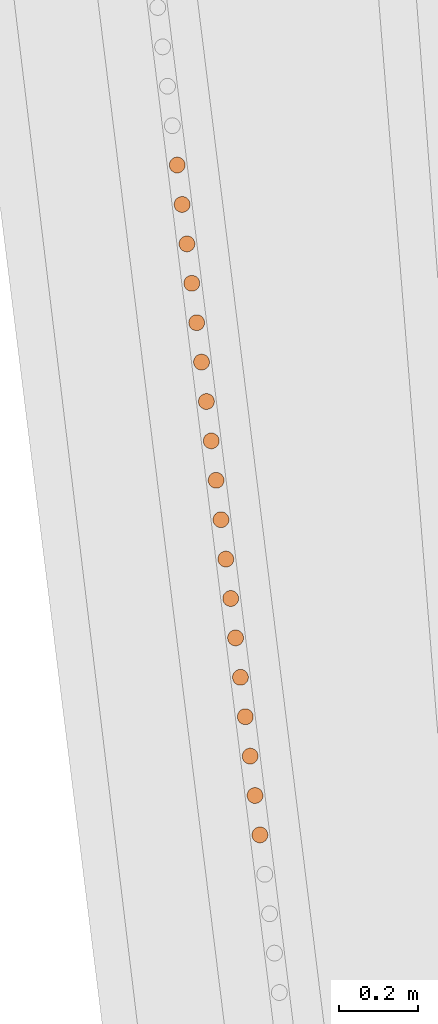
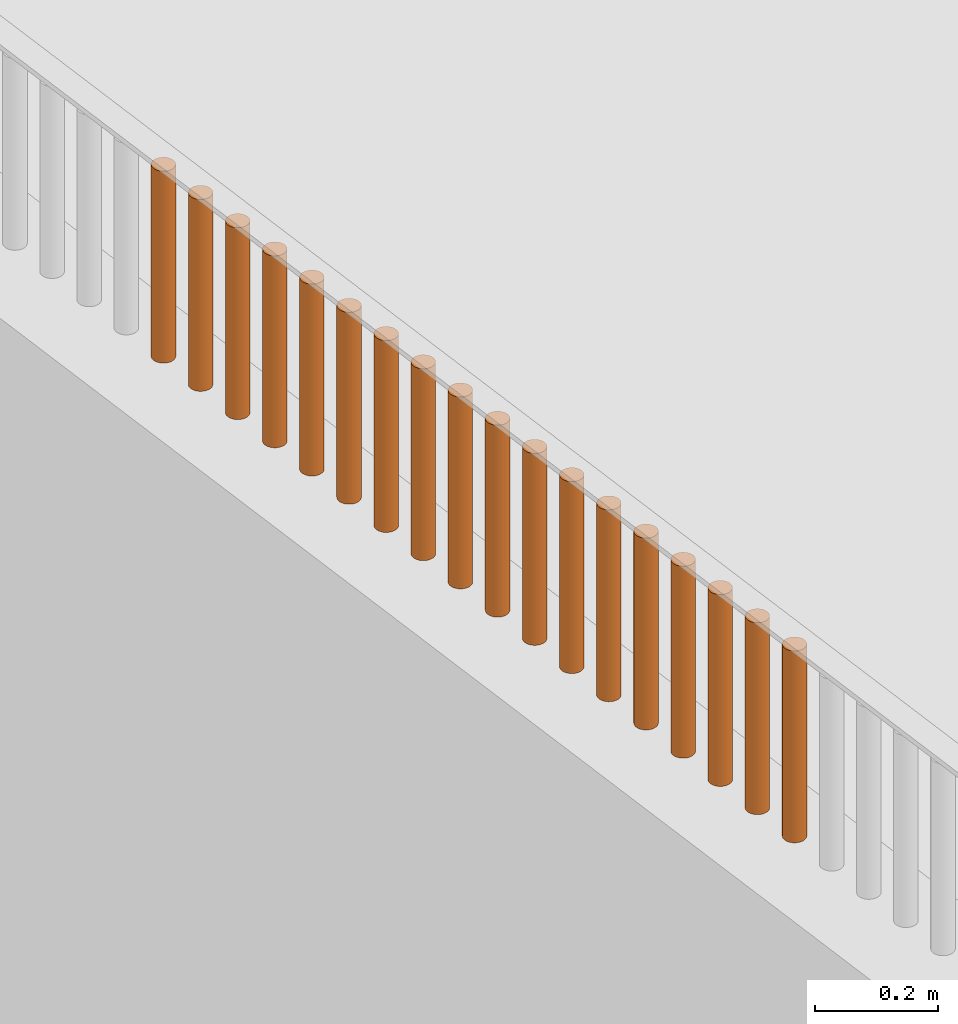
# One storey, part 120 of 1809: 18 proxies, 1 element without a shape of its own.
"""IFC2X3 building model written with IfcOpenShell, lengths in millimetres."""

from ifc_helpers import new_model, entity, si_unit, converted_unit, derived_unit, money_unit, direction, frame, origin_with_axes, place, context, subcontext, project, spatial, faceted_brep, source, transform, mapped, material, type_object, element, aggregate, save


model = new_model("IFC2X3")

# Units and contexts
model_context = context("Model", 3, precision=0.01, world=origin_with_axes(), true_north=direction((0.0, 1.0)))
body_context = subcontext(model_context, "Body", "Model", "MODEL_VIEW")
ifc_project = project(units=[si_unit("LENGTHUNIT", "METRE", prefix="MILLI"), si_unit("AREAUNIT", "SQUARE_METRE"), si_unit("VOLUMEUNIT", "CUBIC_METRE"), converted_unit("PLANEANGLEUNIT", "DEGREE", entity("IfcPlaneAngleMeasure", 0.0174532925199), si_unit("PLANEANGLEUNIT", "RADIAN"), dimensions=[0, 0, 0, 0, 0, 0, 0]), si_unit("SOLIDANGLEUNIT", "STERADIAN"), money_unit("EUR"), converted_unit("TIMEUNIT", "Year", entity("IfcTimeMeasure", 31556926.0), si_unit("TIMEUNIT", "SECOND"), dimensions=[0, 0, 1, 0, 0, 0, 0]), si_unit("MASSUNIT", "GRAM", prefix="KILO"), si_unit("THERMODYNAMICTEMPERATUREUNIT", "DEGREE_CELSIUS"), si_unit("LUMINOUSINTENSITYUNIT", "LUMEN"), si_unit("ENERGYUNIT", "JOULE", prefix="MEGA"), derived_unit("THERMALCONDUCTANCEUNIT", [(si_unit("POWERUNIT", "WATT"), 1), (si_unit("LENGTHUNIT", "METRE"), -1), (si_unit("THERMODYNAMICTEMPERATUREUNIT", "KELVIN"), -1)]), derived_unit("SPECIFICHEATCAPACITYUNIT", [(si_unit("ENERGYUNIT", "JOULE"), 1), (si_unit("MASSUNIT", "GRAM", prefix="KILO"), -1), (si_unit("THERMODYNAMICTEMPERATUREUNIT", "KELVIN"), -1)]), derived_unit("MASSDENSITYUNIT", [(si_unit("MASSUNIT", "GRAM", prefix="KILO"), 1), (si_unit("VOLUMEUNIT", "CUBIC_METRE"), -1)])], contexts=[model_context])

# Site, building, storey
site_placement = place(None, origin_with_axes())
site = spatial("IfcSite", under=ifc_project, at=site_placement, Name="Politse- ja Piirivalveameti ning Päästeameti ühishoone", CompositionType="ELEMENT")
building_placement = place(site_placement, origin_with_axes())
building = spatial("IfcBuilding", under=site, at=building_placement, Name="Politse- ja Piirivalveameti ning Päästeameti ühishoone", CompositionType="ELEMENT")
storey_placement = place(building_placement, origin_with_axes())
storey = spatial("IfcBuildingStorey", under=building, at=storey_placement, Name="Esimene korrus", CompositionType="ELEMENT", Elevation=0.0)

# Proxies
building_element_proxy_type_1 = type_object("IfcBuildingElementProxyType", Name="Railing Type", PredefinedType="NOTDEFINED")
proxy_1_placement = place(storey_placement, frame((-18956.5522504, -53688.4757966, 2100.0), z_axis=(0.0, 0.0, 1.0), x_axis=(1.0, 0.0, 0.0)))
proxy_1 = element("IfcBuildingElementProxy", 1, at=proxy_1_placement, inside=storey, type_object=building_element_proxy_type_1, Name="PIIRDEAED")
ifc_material = material(Name="ET-06_Teras - Konstruktsioon")
building_element_proxy_type_2 = type_object("IfcBuildingElementProxyType", Name="IfcBuildingElementProxy", PredefinedType="NOTDEFINED")
shared_shape_1 = source(origin_with_axes(), body_context, "Body", "Brep", [
    faceted_brep([(0.0, -20.0, 0.0), (3.47296355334, -19.6961550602, 0.0), (3.47296355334, -19.6961550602, 380.000012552), (0.0, -20.0, 380.000012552), (-3.47296355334, -19.6961550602, 0.0), (-6.84040286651, -18.7938524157, 0.0), (-10.0, -17.3205080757, 0.0), (-12.8557521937, -15.3208888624, 0.0), (-15.3208888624, -12.8557521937, 0.0), (-17.3205080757, -10.0, 0.0), (-18.7938524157, -6.84040286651, 0.0), (-19.6961550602, -3.47296355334, 0.0), (-20.0, 0.0, 0.0), (-19.6961550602, 3.47296355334, 0.0), (-18.7938524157, 6.84040286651, 0.0), (-17.3205080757, 10.0, 0.0), (-15.3208888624, 12.8557521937, 0.0), (-12.8557521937, 15.3208888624, 0.0), (-10.0, 17.3205080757, 0.0), (-6.84040286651, 18.7938524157, 0.0), (-3.47296355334, 19.6961550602, 0.0), (0.0, 20.0, 0.0), (3.47296355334, 19.6961550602, 0.0), (6.84040286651, 18.7938524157, 0.0), (10.0, 17.3205080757, 0.0), (12.8557521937, 15.3208888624, 0.0), (15.3208888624, 12.8557521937, 0.0), (17.3205080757, 10.0, 0.0), (18.7938524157, 6.84040286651, 0.0), (19.6961550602, 3.47296355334, 0.0), (20.0, 0.0, 0.0), (19.6961550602, -3.47296355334, 0.0), (18.7938524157, -6.84040286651, 0.0), (17.3205080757, -10.0, 0.0), (15.3208888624, -12.8557521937, 0.0), (12.8557521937, -15.3208888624, 0.0), (10.0, -17.3205080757, 0.0), (6.84040286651, -18.7938524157, 0.0), (6.84040286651, -18.7938524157, 380.000012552), (10.0, -17.3205080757, 380.000012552), (12.8557521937, -15.3208888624, 380.000012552), (15.3208888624, -12.8557521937, 380.000012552), (17.3205080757, -10.0, 380.000012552), (18.7938524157, -6.84040286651, 380.000012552), (19.6961550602, -3.47296355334, 380.000012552), (20.0, 0.0, 380.000012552), (19.6961550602, 3.47296355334, 380.000012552), (18.7938524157, 6.84040286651, 380.000012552), (17.3205080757, 10.0, 380.000012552), (15.3208888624, 12.8557521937, 380.000012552), (12.8557521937, 15.3208888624, 380.000012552), (10.0, 17.3205080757, 380.000012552), (6.84040286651, 18.7938524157, 380.000012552), (3.47296355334, 19.6961550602, 380.000012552), (0.0, 20.0, 380.000012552), (-3.47296355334, 19.6961550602, 380.000012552), (-6.84040286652, 18.7938524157, 380.000012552), (-10.0, 17.3205080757, 380.000012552), (-12.8557521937, 15.3208888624, 380.000012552), (-15.3208888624, 12.8557521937, 380.000012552), (-17.3205080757, 10.0, 380.000012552), (-18.7938524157, 6.84040286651, 380.000012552), (-19.6961550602, 3.47296355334, 380.000012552), (-20.0, 0.0, 380.000012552), (-19.6961550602, -3.47296355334, 380.000012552), (-18.7938524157, -6.84040286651, 380.000012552), (-17.3205080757, -10.0, 380.000012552), (-15.3208888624, -12.8557521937, 380.000012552), (-12.8557521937, -15.3208888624, 380.000012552), (-10.0, -17.3205080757, 380.000012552), (-6.84040286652, -18.7938524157, 380.000012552), (-3.47296355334, -19.6961550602, 380.000012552)], [[[0, 1, 2, 3]], [[0, 4, 5, 6, 7, 8, 9, 10, 11, 12, 13, 14, 15, 16, 17, 18, 19, 20, 21, 22, 23, 24, 25, 26, 27, 28, 29, 30, 31, 32, 33, 34, 35, 36, 37, 1]], [[1, 37, 38, 2]], [[3, 2, 38, 39, 40, 41, 42, 43, 44, 45, 46, 47, 48, 49, 50, 51, 52, 53, 54, 55, 56, 57, 58, 59, 60, 61, 62, 63, 64, 65, 66, 67, 68, 69, 70, 71]], [[4, 0, 3, 71]], [[5, 4, 71, 70]], [[6, 5, 70, 69]], [[7, 6, 69, 68]], [[8, 7, 68, 67]], [[9, 8, 67, 66]], [[10, 9, 66, 65]], [[11, 10, 65, 64]], [[12, 11, 64, 63]], [[13, 12, 63, 62]], [[14, 13, 62, 61]], [[15, 14, 61, 60]], [[16, 15, 60, 59]], [[17, 16, 59, 58]], [[18, 17, 58, 57]], [[19, 18, 57, 56]], [[20, 19, 56, 55]], [[21, 20, 55, 54]], [[22, 21, 54, 53]], [[23, 22, 53, 52]], [[24, 23, 52, 51]], [[25, 24, 51, 50]], [[26, 25, 50, 49]], [[27, 26, 49, 48]], [[28, 27, 48, 47]], [[29, 28, 47, 46]], [[30, 29, 46, 45]], [[31, 30, 45, 44]], [[32, 31, 44, 43]], [[33, 32, 43, 42]], [[34, 33, 42, 41]], [[35, 34, 41, 40]], [[36, 35, 40, 39]], [[37, 36, 39, 38]]]),
])
proxy_2_placement = place(proxy_1_placement, frame((-2665.04087448, 20756.8682445, -1.25517001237e-05), z_axis=(0.0, 0.0, 1.0), x_axis=(1.0, 0.0, 0.0)))
proxy_2 = element("IfcBuildingElementProxy", 2, at=proxy_2_placement, type_object=building_element_proxy_type_2, material=ifc_material, Name="BALUSTER - 001", context=body_context, shape_type="MappedRepresentation", body=[
    mapped(shared_shape_1, transform((0.0, 0.0, 0.0), x_axis=(0.992468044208, 0.122503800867, 0.0), y_axis=(-0.122503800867, 0.992468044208, 0.0), z_axis=(0.0, 0.0, 1.0))),
])
proxy_3_placement = place(proxy_1_placement, frame((-2677.2885794, 20856.0933759, -1.25517001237e-05), z_axis=(0.0, 0.0, 1.0), x_axis=(1.0, 0.0, 0.0)))
proxy_3 = element("IfcBuildingElementProxy", 3, at=proxy_3_placement, type_object=building_element_proxy_type_2, material=ifc_material, Name="BALUSTER - 001", context=body_context, shape_type="MappedRepresentation", body=[
    mapped(shared_shape_1, transform((0.0, 0.0, 0.0), x_axis=(0.992468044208, 0.122503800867, 0.0), y_axis=(-0.122503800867, 0.992468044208, 0.0), z_axis=(0.0, 0.0, 1.0))),
])
proxy_4_placement = place(proxy_1_placement, frame((-2689.53628431, 20955.3185073, -1.25517001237e-05), z_axis=(0.0, 0.0, 1.0), x_axis=(1.0, 0.0, 0.0)))
proxy_4 = element("IfcBuildingElementProxy", 4, at=proxy_4_placement, type_object=building_element_proxy_type_2, material=ifc_material, Name="BALUSTER - 001", context=body_context, shape_type="MappedRepresentation", body=[
    mapped(shared_shape_1, transform((0.0, 0.0, 0.0), x_axis=(0.992468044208, 0.122503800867, 0.0), y_axis=(-0.122503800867, 0.992468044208, 0.0), z_axis=(0.0, 0.0, 1.0))),
])
proxy_5_placement = place(proxy_1_placement, frame((-2714.03169414, 21153.7687702, -1.25517001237e-05), z_axis=(0.0, 0.0, 1.0), x_axis=(1.0, 0.0, 0.0)))
proxy_5 = element("IfcBuildingElementProxy", 5, at=proxy_5_placement, type_object=building_element_proxy_type_2, material=ifc_material, Name="BALUSTER - 001", context=body_context, shape_type="MappedRepresentation", body=[
    mapped(shared_shape_1, transform((0.0, 0.0, 0.0), x_axis=(0.992468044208, 0.122503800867, 0.0), y_axis=(-0.122503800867, 0.992468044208, 0.0), z_axis=(0.0, 0.0, 1.0))),
])
proxy_6_placement = place(proxy_1_placement, frame((-2763.02251379, 21550.6692959, -1.25517001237e-05), z_axis=(0.0, 0.0, 1.0), x_axis=(1.0, 0.0, 0.0)))
proxy_6 = element("IfcBuildingElementProxy", 6, at=proxy_6_placement, type_object=building_element_proxy_type_2, material=ifc_material, Name="BALUSTER - 001", context=body_context, shape_type="MappedRepresentation", body=[
    mapped(shared_shape_1, transform((0.0, 0.0, 0.0), x_axis=(0.992468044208, 0.122503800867, 0.0), y_axis=(-0.122503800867, 0.992468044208, 0.0), z_axis=(0.0, 0.0, 1.0))),
])
proxy_7_placement = place(proxy_1_placement, frame((-2787.51792362, 21749.1195587, -1.25517001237e-05), z_axis=(0.0, 0.0, 1.0), x_axis=(1.0, 0.0, 0.0)))
proxy_7 = element("IfcBuildingElementProxy", 7, at=proxy_7_placement, type_object=building_element_proxy_type_2, material=ifc_material, Name="BALUSTER - 001", context=body_context, shape_type="MappedRepresentation", body=[
    mapped(shared_shape_1, transform((0.0, 0.0, 0.0), x_axis=(0.992468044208, 0.122503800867, 0.0), y_axis=(-0.122503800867, 0.992468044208, 0.0), z_axis=(0.0, 0.0, 1.0))),
])
proxy_8_placement = place(proxy_1_placement, frame((-2799.76562853, 21848.3446901, -1.25517001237e-05), z_axis=(0.0, 0.0, 1.0), x_axis=(1.0, 0.0, 0.0)))
proxy_8 = element("IfcBuildingElementProxy", 8, at=proxy_8_placement, type_object=building_element_proxy_type_2, material=ifc_material, Name="BALUSTER - 001", context=body_context, shape_type="MappedRepresentation", body=[
    mapped(shared_shape_1, transform((0.0, 0.0, 0.0), x_axis=(0.992468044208, 0.122503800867, 0.0), y_axis=(-0.122503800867, 0.992468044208, 0.0), z_axis=(0.0, 0.0, 1.0))),
])
proxy_9_placement = place(proxy_1_placement, frame((-2812.01333344, 21947.5698216, -1.25517001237e-05), z_axis=(0.0, 0.0, 1.0), x_axis=(1.0, 0.0, 0.0)))
proxy_9 = element("IfcBuildingElementProxy", 9, at=proxy_9_placement, type_object=building_element_proxy_type_2, material=ifc_material, Name="BALUSTER - 001", context=body_context, shape_type="MappedRepresentation", body=[
    mapped(shared_shape_1, transform((0.0, 0.0, 0.0), x_axis=(0.992468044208, 0.122503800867, 0.0), y_axis=(-0.122503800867, 0.992468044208, 0.0), z_axis=(0.0, 0.0, 1.0))),
])
proxy_10_placement = place(proxy_1_placement, frame((-2848.75644818, 22245.2452158, -1.25517001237e-05), z_axis=(0.0, 0.0, 1.0), x_axis=(1.0, 0.0, 0.0)))
proxy_10 = element("IfcBuildingElementProxy", 10, at=proxy_10_placement, type_object=building_element_proxy_type_2, material=ifc_material, Name="BALUSTER - 001", context=body_context, shape_type="MappedRepresentation", body=[
    mapped(shared_shape_1, transform((0.0, 0.0, 0.0), x_axis=(0.992468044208, 0.122503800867, 0.0), y_axis=(-0.122503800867, 0.992468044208, 0.0), z_axis=(0.0, 0.0, 1.0))),
])
shared_shape_2 = source(origin_with_axes(), body_context, "Body", "Brep", [
    faceted_brep([(0.0, -20.0, 0.0), (3.47296355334, -19.6961550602, 0.0), (3.47296355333, -19.6961550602, 380.000012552), (0.0, -20.0, 380.000012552), (-3.47296355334, -19.6961550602, 0.0), (-6.84040286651, -18.7938524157, 0.0), (-10.0, -17.3205080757, 0.0), (-12.8557521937, -15.3208888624, 0.0), (-15.3208888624, -12.8557521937, 0.0), (-17.3205080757, -10.0, 0.0), (-18.7938524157, -6.84040286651, 0.0), (-19.6961550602, -3.47296355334, 0.0), (-20.0, 0.0, 0.0), (-19.6961550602, 3.47296355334, 0.0), (-18.7938524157, 6.84040286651, 0.0), (-17.3205080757, 10.0, 0.0), (-15.3208888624, 12.8557521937, 0.0), (-12.8557521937, 15.3208888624, 0.0), (-10.0, 17.3205080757, 0.0), (-6.84040286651, 18.7938524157, 0.0), (-3.47296355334, 19.6961550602, 0.0), (0.0, 20.0, 0.0), (3.47296355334, 19.6961550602, 0.0), (6.84040286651, 18.7938524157, 0.0), (10.0, 17.3205080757, 0.0), (12.8557521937, 15.3208888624, 0.0), (15.3208888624, 12.8557521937, 0.0), (17.3205080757, 10.0, 0.0), (18.7938524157, 6.84040286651, 0.0), (19.6961550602, 3.47296355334, 0.0), (20.0, 0.0, 0.0), (19.6961550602, -3.47296355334, 0.0), (18.7938524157, -6.84040286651, 0.0), (17.3205080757, -10.0, 0.0), (15.3208888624, -12.8557521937, 0.0), (12.8557521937, -15.3208888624, 0.0), (10.0, -17.3205080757, 0.0), (6.84040286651, -18.7938524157, 0.0), (6.84040286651, -18.7938524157, 380.000012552), (9.99999999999, -17.3205080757, 380.000012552), (12.8557521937, -15.3208888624, 380.000012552), (15.3208888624, -12.8557521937, 380.000012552), (17.3205080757, -10.0, 380.000012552), (18.7938524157, -6.84040286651, 380.000012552), (19.6961550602, -3.47296355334, 380.000012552), (20.0, 0.0, 380.000012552), (19.6961550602, 3.47296355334, 380.000012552), (18.7938524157, 6.84040286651, 380.000012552), (17.3205080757, 10.0, 380.000012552), (15.3208888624, 12.8557521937, 380.000012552), (12.8557521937, 15.3208888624, 380.000012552), (9.99999999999, 17.3205080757, 380.000012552), (6.84040286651, 18.7938524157, 380.000012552), (3.47296355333, 19.6961550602, 380.000012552), (0.0, 20.0, 380.000012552), (-3.47296355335, 19.6961550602, 380.000012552), (-6.84040286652, 18.7938524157, 380.000012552), (-10.0, 17.3205080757, 380.000012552), (-12.8557521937, 15.3208888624, 380.000012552), (-15.3208888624, 12.8557521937, 380.000012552), (-17.3205080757, 10.0, 380.000012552), (-18.7938524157, 6.84040286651, 380.000012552), (-19.6961550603, 3.47296355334, 380.000012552), (-20.0, 0.0, 380.000012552), (-19.6961550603, -3.47296355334, 380.000012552), (-18.7938524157, -6.84040286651, 380.000012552), (-17.3205080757, -10.0, 380.000012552), (-15.3208888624, -12.8557521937, 380.000012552), (-12.8557521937, -15.3208888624, 380.000012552), (-10.0, -17.3205080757, 380.000012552), (-6.84040286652, -18.7938524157, 380.000012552), (-3.47296355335, -19.6961550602, 380.000012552)], [[[0, 1, 2, 3]], [[0, 4, 5, 6, 7, 8, 9, 10, 11, 12, 13, 14, 15, 16, 17, 18, 19, 20, 21, 22, 23, 24, 25, 26, 27, 28, 29, 30, 31, 32, 33, 34, 35, 36, 37, 1]], [[1, 37, 38, 2]], [[3, 2, 38, 39, 40, 41, 42, 43, 44, 45, 46, 47, 48, 49, 50, 51, 52, 53, 54, 55, 56, 57, 58, 59, 60, 61, 62, 63, 64, 65, 66, 67, 68, 69, 70, 71]], [[4, 0, 3, 71]], [[5, 4, 71, 70]], [[6, 5, 70, 69]], [[7, 6, 69, 68]], [[8, 7, 68, 67]], [[9, 8, 67, 66]], [[10, 9, 66, 65]], [[11, 10, 65, 64]], [[12, 11, 64, 63]], [[13, 12, 63, 62]], [[14, 13, 62, 61]], [[15, 14, 61, 60]], [[16, 15, 60, 59]], [[17, 16, 59, 58]], [[18, 17, 58, 57]], [[19, 18, 57, 56]], [[20, 19, 56, 55]], [[21, 20, 55, 54]], [[22, 21, 54, 53]], [[23, 22, 53, 52]], [[24, 23, 52, 51]], [[25, 24, 51, 50]], [[26, 25, 50, 49]], [[27, 26, 49, 48]], [[28, 27, 48, 47]], [[29, 28, 47, 46]], [[30, 29, 46, 45]], [[31, 30, 45, 44]], [[32, 31, 44, 43]], [[33, 32, 43, 42]], [[34, 33, 42, 41]], [[35, 34, 41, 40]], [[36, 35, 40, 39]], [[37, 36, 39, 38]]]),
])
proxy_11_placement = place(proxy_1_placement, frame((-2640.54546466, 20558.4179816, -1.25517001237e-05), z_axis=(0.0, 0.0, 1.0), x_axis=(1.0, 0.0, 0.0)))
proxy_11 = element("IfcBuildingElementProxy", 11, at=proxy_11_placement, type_object=building_element_proxy_type_2, material=ifc_material, Name="BALUSTER - 001", context=body_context, shape_type="MappedRepresentation", body=[
    mapped(shared_shape_2, transform((0.0, 0.0, 0.0), x_axis=(0.992468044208, 0.122503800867, 0.0), y_axis=(-0.122503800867, 0.992468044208, 0.0), z_axis=(0.0, 0.0, 1.0))),
])
shared_shape_3 = source(origin_with_axes(), body_context, "Body", "Brep", [
    faceted_brep([(0.0, -20.0, 0.0), (3.47296355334, -19.6961550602, 0.0), (3.47296355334, -19.6961550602, 380.000012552), (0.0, -20.0, 380.000012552), (-3.47296355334, -19.6961550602, 0.0), (-6.84040286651, -18.7938524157, 0.0), (-10.0, -17.3205080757, 0.0), (-12.8557521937, -15.3208888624, 0.0), (-15.3208888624, -12.8557521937, 0.0), (-17.3205080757, -10.0, 0.0), (-18.7938524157, -6.84040286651, 0.0), (-19.6961550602, -3.47296355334, 0.0), (-20.0, 0.0, 0.0), (-19.6961550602, 3.47296355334, 0.0), (-18.7938524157, 6.84040286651, 0.0), (-17.3205080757, 10.0, 0.0), (-15.3208888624, 12.8557521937, 0.0), (-12.8557521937, 15.3208888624, 0.0), (-10.0, 17.3205080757, 0.0), (-6.84040286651, 18.7938524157, 0.0), (-3.47296355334, 19.6961550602, 0.0), (0.0, 20.0, 0.0), (3.47296355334, 19.6961550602, 0.0), (6.84040286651, 18.7938524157, 0.0), (10.0, 17.3205080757, 0.0), (12.8557521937, 15.3208888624, 0.0), (15.3208888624, 12.8557521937, 0.0), (17.3205080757, 10.0, 0.0), (18.7938524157, 6.84040286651, 0.0), (19.6961550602, 3.47296355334, 0.0), (20.0, 0.0, 0.0), (19.6961550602, -3.47296355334, 0.0), (18.7938524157, -6.84040286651, 0.0), (17.3205080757, -10.0, 0.0), (15.3208888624, -12.8557521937, 0.0), (12.8557521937, -15.3208888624, 0.0), (10.0, -17.3205080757, 0.0), (6.84040286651, -18.7938524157, 0.0), (6.84040286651, -18.7938524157, 380.000012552), (10.0, -17.3205080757, 380.000012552), (12.8557521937, -15.3208888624, 380.000012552), (15.3208888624, -12.8557521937, 380.000012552), (17.3205080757, -10.0, 380.000012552), (18.7938524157, -6.84040286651, 380.000012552), (19.6961550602, -3.47296355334, 380.000012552), (20.0, 0.0, 380.000012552), (19.6961550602, 3.47296355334, 380.000012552), (18.7938524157, 6.84040286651, 380.000012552), (17.3205080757, 10.0, 380.000012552), (15.3208888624, 12.8557521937, 380.000012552), (12.8557521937, 15.3208888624, 380.000012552), (10.0, 17.3205080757, 380.000012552), (6.84040286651, 18.7938524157, 380.000012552), (3.47296355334, 19.6961550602, 380.000012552), (0.0, 20.0, 380.000012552), (-3.47296355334, 19.6961550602, 380.000012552), (-6.84040286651, 18.7938524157, 380.000012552), (-10.0, 17.3205080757, 380.000012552), (-12.8557521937, 15.3208888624, 380.000012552), (-15.3208888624, 12.8557521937, 380.000012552), (-17.3205080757, 10.0, 380.000012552), (-18.7938524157, 6.84040286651, 380.000012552), (-19.6961550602, 3.47296355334, 380.000012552), (-20.0, 0.0, 380.000012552), (-19.6961550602, -3.47296355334, 380.000012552), (-18.7938524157, -6.84040286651, 380.000012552), (-17.3205080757, -10.0, 380.000012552), (-15.3208888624, -12.8557521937, 380.000012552), (-12.8557521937, -15.3208888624, 380.000012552), (-10.0, -17.3205080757, 380.000012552), (-6.84040286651, -18.7938524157, 380.000012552), (-3.47296355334, -19.6961550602, 380.000012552)], [[[0, 1, 2, 3]], [[0, 4, 5, 6, 7, 8, 9, 10, 11, 12, 13, 14, 15, 16, 17, 18, 19, 20, 21, 22, 23, 24, 25, 26, 27, 28, 29, 30, 31, 32, 33, 34, 35, 36, 37, 1]], [[1, 37, 38, 2]], [[3, 2, 38, 39, 40, 41, 42, 43, 44, 45, 46, 47, 48, 49, 50, 51, 52, 53, 54, 55, 56, 57, 58, 59, 60, 61, 62, 63, 64, 65, 66, 67, 68, 69, 70, 71]], [[4, 0, 3, 71]], [[5, 4, 71, 70]], [[6, 5, 70, 69]], [[7, 6, 69, 68]], [[8, 7, 68, 67]], [[9, 8, 67, 66]], [[10, 9, 66, 65]], [[11, 10, 65, 64]], [[12, 11, 64, 63]], [[13, 12, 63, 62]], [[14, 13, 62, 61]], [[15, 14, 61, 60]], [[16, 15, 60, 59]], [[17, 16, 59, 58]], [[18, 17, 58, 57]], [[19, 18, 57, 56]], [[20, 19, 56, 55]], [[21, 20, 55, 54]], [[22, 21, 54, 53]], [[23, 22, 53, 52]], [[24, 23, 52, 51]], [[25, 24, 51, 50]], [[26, 25, 50, 49]], [[27, 26, 49, 48]], [[28, 27, 48, 47]], [[29, 28, 47, 46]], [[30, 29, 46, 45]], [[31, 30, 45, 44]], [[32, 31, 44, 43]], [[33, 32, 43, 42]], [[34, 33, 42, 41]], [[35, 34, 41, 40]], [[36, 35, 40, 39]], [[37, 36, 39, 38]]]),
])
proxy_12_placement = place(proxy_1_placement, frame((-2701.78398922, 21054.5436387, -1.25517001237e-05), z_axis=(0.0, 0.0, 1.0), x_axis=(1.0, 0.0, 0.0)))
proxy_12 = element("IfcBuildingElementProxy", 12, at=proxy_12_placement, type_object=building_element_proxy_type_2, material=ifc_material, Name="BALUSTER - 001", context=body_context, shape_type="MappedRepresentation", body=[
    mapped(shared_shape_3, transform((0.0, 0.0, 0.0), x_axis=(0.992468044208, 0.122503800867, 0.0), y_axis=(-0.122503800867, 0.992468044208, 0.0), z_axis=(0.0, 0.0, 1.0))),
])
proxy_13_placement = place(proxy_1_placement, frame((-2726.27939905, 21252.9939016, -1.25517001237e-05), z_axis=(0.0, 0.0, 1.0), x_axis=(1.0, 0.0, 0.0)))
proxy_13 = element("IfcBuildingElementProxy", 13, at=proxy_13_placement, type_object=building_element_proxy_type_2, material=ifc_material, Name="BALUSTER - 001", context=body_context, shape_type="MappedRepresentation", body=[
    mapped(shared_shape_3, transform((0.0, 0.0, 0.0), x_axis=(0.992468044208, 0.122503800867, 0.0), y_axis=(-0.122503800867, 0.992468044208, 0.0), z_axis=(0.0, 0.0, 1.0))),
])
proxy_14_placement = place(proxy_1_placement, frame((-2750.77480888, 21451.4441644, -1.25517001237e-05), z_axis=(0.0, 0.0, 1.0), x_axis=(1.0, 0.0, 0.0)))
proxy_14 = element("IfcBuildingElementProxy", 14, at=proxy_14_placement, type_object=building_element_proxy_type_2, material=ifc_material, Name="BALUSTER - 001", context=body_context, shape_type="MappedRepresentation", body=[
    mapped(shared_shape_3, transform((0.0, 0.0, 0.0), x_axis=(0.992468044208, 0.122503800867, 0.0), y_axis=(-0.122503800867, 0.992468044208, 0.0), z_axis=(0.0, 0.0, 1.0))),
])
proxy_15_placement = place(proxy_1_placement, frame((-2775.2702187, 21649.8944273, -1.25517001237e-05), z_axis=(0.0, 0.0, 1.0), x_axis=(1.0, 0.0, 0.0)))
proxy_15 = element("IfcBuildingElementProxy", 15, at=proxy_15_placement, type_object=building_element_proxy_type_2, material=ifc_material, Name="BALUSTER - 001", context=body_context, shape_type="MappedRepresentation", body=[
    mapped(shared_shape_3, transform((0.0, 0.0, 0.0), x_axis=(0.992468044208, 0.122503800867, 0.0), y_axis=(-0.122503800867, 0.992468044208, 0.0), z_axis=(0.0, 0.0, 1.0))),
])
shared_shape_4 = source(origin_with_axes(), body_context, "Body", "Brep", [
    faceted_brep([(0.0, -20.0, 0.0), (3.47296355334, -19.6961550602, 0.0), (3.47296355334, -19.6961550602, 380.000012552), (0.0, -20.0, 380.000012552), (-3.47296355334, -19.6961550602, 0.0), (-6.84040286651, -18.7938524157, 0.0), (-10.0, -17.3205080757, 0.0), (-12.8557521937, -15.3208888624, 0.0), (-15.3208888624, -12.8557521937, 0.0), (-17.3205080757, -10.0, 0.0), (-18.7938524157, -6.84040286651, 0.0), (-19.6961550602, -3.47296355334, 0.0), (-20.0, 0.0, 0.0), (-19.6961550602, 3.47296355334, 0.0), (-18.7938524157, 6.84040286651, 0.0), (-17.3205080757, 10.0, 0.0), (-15.3208888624, 12.8557521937, 0.0), (-12.8557521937, 15.3208888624, 0.0), (-10.0, 17.3205080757, 0.0), (-6.84040286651, 18.7938524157, 0.0), (-3.47296355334, 19.6961550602, 0.0), (0.0, 20.0, 0.0), (3.47296355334, 19.6961550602, 0.0), (6.84040286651, 18.7938524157, 0.0), (10.0, 17.3205080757, 0.0), (12.8557521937, 15.3208888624, 0.0), (15.3208888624, 12.8557521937, 0.0), (17.3205080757, 10.0, 0.0), (18.7938524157, 6.84040286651, 0.0), (19.6961550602, 3.47296355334, 0.0), (20.0, 0.0, 0.0), (19.6961550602, -3.47296355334, 0.0), (18.7938524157, -6.84040286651, 0.0), (17.3205080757, -10.0, 0.0), (15.3208888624, -12.8557521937, 0.0), (12.8557521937, -15.3208888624, 0.0), (10.0, -17.3205080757, 0.0), (6.84040286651, -18.7938524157, 0.0), (6.84040286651, -18.7938524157, 380.000012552), (10.0, -17.3205080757, 380.000012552), (12.8557521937, -15.3208888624, 380.000012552), (15.3208888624, -12.8557521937, 380.000012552), (17.3205080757, -10.0, 380.000012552), (18.7938524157, -6.84040286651, 380.000012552), (19.6961550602, -3.47296355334, 380.000012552), (20.0, 0.0, 380.000012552), (19.6961550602, 3.47296355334, 380.000012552), (18.7938524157, 6.84040286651, 380.000012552), (17.3205080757, 10.0, 380.000012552), (15.3208888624, 12.8557521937, 380.000012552), (12.8557521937, 15.3208888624, 380.000012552), (10.0, 17.3205080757, 380.000012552), (6.84040286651, 18.7938524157, 380.000012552), (3.47296355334, 19.6961550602, 380.000012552), (0.0, 20.0, 380.000012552), (-3.47296355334, 19.6961550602, 380.000012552), (-6.84040286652, 18.7938524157, 380.000012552), (-10.0, 17.3205080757, 380.000012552), (-12.8557521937, 15.3208888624, 380.000012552), (-15.3208888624, 12.8557521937, 380.000012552), (-17.3205080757, 10.0, 380.000012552), (-18.7938524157, 6.84040286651, 380.000012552), (-19.6961550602, 3.47296355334, 380.000012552), (-20.0, 0.0, 380.000012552), (-19.6961550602, -3.47296355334, 380.000012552), (-18.7938524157, -6.84040286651, 380.000012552), (-17.3205080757, -10.0, 380.000012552), (-15.3208888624, -12.8557521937, 380.000012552), (-12.8557521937, -15.3208888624, 380.000012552), (-10.0, -17.3205080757, 380.000012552), (-6.84040286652, -18.7938524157, 380.000012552), (-3.47296355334, -19.6961550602, 380.000012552)], [[[0, 1, 2, 3]], [[0, 4, 5, 6, 7, 8, 9, 10, 11, 12, 13, 14, 15, 16, 17, 18, 19, 20, 21, 22, 23, 24, 25, 26, 27, 28, 29, 30, 31, 32, 33, 34, 35, 36, 37, 1]], [[1, 37, 38, 2]], [[3, 2, 38, 39, 40, 41, 42, 43, 44, 45, 46, 47, 48, 49, 50, 51, 52, 53, 54, 55, 56, 57, 58, 59, 60, 61, 62, 63, 64, 65, 66, 67, 68, 69, 70, 71]], [[4, 0, 3, 71]], [[5, 4, 71, 70]], [[6, 5, 70, 69]], [[7, 6, 69, 68]], [[8, 7, 68, 67]], [[9, 8, 67, 66]], [[10, 9, 66, 65]], [[11, 10, 65, 64]], [[12, 11, 64, 63]], [[13, 12, 63, 62]], [[14, 13, 62, 61]], [[15, 14, 61, 60]], [[16, 15, 60, 59]], [[17, 16, 59, 58]], [[18, 17, 58, 57]], [[19, 18, 57, 56]], [[20, 19, 56, 55]], [[21, 20, 55, 54]], [[22, 21, 54, 53]], [[23, 22, 53, 52]], [[24, 23, 52, 51]], [[25, 24, 51, 50]], [[26, 25, 50, 49]], [[27, 26, 49, 48]], [[28, 27, 48, 47]], [[29, 28, 47, 46]], [[30, 29, 46, 45]], [[31, 30, 45, 44]], [[32, 31, 44, 43]], [[33, 32, 43, 42]], [[34, 33, 42, 41]], [[35, 34, 41, 40]], [[36, 35, 40, 39]], [[37, 36, 39, 38]]]),
])
proxy_16_placement = place(proxy_1_placement, frame((-2824.26103835, 22046.794953, -1.25517001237e-05), z_axis=(0.0, 0.0, 1.0), x_axis=(1.0, 0.0, 0.0)))
proxy_16 = element("IfcBuildingElementProxy", 16, at=proxy_16_placement, type_object=building_element_proxy_type_2, material=ifc_material, Name="BALUSTER - 001", context=body_context, shape_type="MappedRepresentation", body=[
    mapped(shared_shape_4, transform((0.0, 0.0, 0.0), x_axis=(0.992468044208, 0.122503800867, 0.0), y_axis=(-0.122503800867, 0.992468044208, 0.0), z_axis=(0.0, 0.0, 1.0))),
])
shared_shape_5 = source(origin_with_axes(), body_context, "Body", "Brep", [
    faceted_brep([(0.0, -20.0, 0.0), (3.47296355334, -19.6961550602, 0.0), (3.47296355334, -19.6961550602, 380.000012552), (0.0, -20.0, 380.000012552), (-3.47296355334, -19.6961550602, 0.0), (-6.84040286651, -18.7938524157, 0.0), (-10.0, -17.3205080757, 0.0), (-12.8557521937, -15.3208888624, 0.0), (-15.3208888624, -12.8557521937, 0.0), (-17.3205080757, -10.0, 0.0), (-18.7938524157, -6.84040286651, 0.0), (-19.6961550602, -3.47296355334, 0.0), (-20.0, 0.0, 0.0), (-19.6961550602, 3.47296355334, 0.0), (-18.7938524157, 6.84040286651, 0.0), (-17.3205080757, 10.0, 0.0), (-15.3208888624, 12.8557521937, 0.0), (-12.8557521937, 15.3208888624, 0.0), (-10.0, 17.3205080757, 0.0), (-6.84040286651, 18.7938524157, 0.0), (-3.47296355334, 19.6961550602, 0.0), (0.0, 20.0, 0.0), (3.47296355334, 19.6961550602, 0.0), (6.84040286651, 18.7938524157, 0.0), (10.0, 17.3205080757, 0.0), (12.8557521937, 15.3208888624, 0.0), (15.3208888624, 12.8557521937, 0.0), (17.3205080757, 10.0, 0.0), (18.7938524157, 6.84040286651, 0.0), (19.6961550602, 3.47296355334, 0.0), (20.0, 0.0, 0.0), (19.6961550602, -3.47296355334, 0.0), (18.7938524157, -6.84040286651, 0.0), (17.3205080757, -10.0, 0.0), (15.3208888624, -12.8557521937, 0.0), (12.8557521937, -15.3208888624, 0.0), (10.0, -17.3205080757, 0.0), (6.84040286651, -18.7938524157, 0.0), (6.84040286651, -18.7938524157, 380.000012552), (10.0, -17.3205080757, 380.000012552), (12.8557521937, -15.3208888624, 380.000012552), (15.3208888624, -12.8557521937, 380.000012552), (17.3205080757, -10.0, 380.000012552), (18.7938524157, -6.84040286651, 380.000012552), (19.6961550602, -3.47296355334, 380.000012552), (20.0, 0.0, 380.000012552), (19.6961550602, 3.47296355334, 380.000012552), (18.7938524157, 6.84040286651, 380.000012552), (17.3205080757, 10.0, 380.000012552), (15.3208888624, 12.8557521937, 380.000012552), (12.8557521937, 15.3208888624, 380.000012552), (10.0, 17.3205080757, 380.000012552), (6.84040286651, 18.7938524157, 380.000012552), (3.47296355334, 19.6961550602, 380.000012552), (0.0, 20.0, 380.000012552), (-3.47296355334, 19.6961550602, 380.000012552), (-6.84040286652, 18.7938524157, 380.000012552), (-10.0, 17.3205080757, 380.000012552), (-12.8557521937, 15.3208888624, 380.000012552), (-15.3208888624, 12.8557521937, 380.000012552), (-17.3205080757, 10.0, 380.000012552), (-18.7938524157, 6.84040286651, 380.000012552), (-19.6961550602, 3.47296355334, 380.000012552), (-20.0, 0.0, 380.000012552), (-19.6961550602, -3.47296355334, 380.000012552), (-18.7938524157, -6.84040286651, 380.000012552), (-17.3205080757, -10.0, 380.000012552), (-15.3208888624, -12.8557521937, 380.000012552), (-12.8557521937, -15.3208888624, 380.000012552), (-10.0, -17.3205080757, 380.000012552), (-6.84040286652, -18.7938524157, 380.000012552), (-3.47296355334, -19.6961550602, 380.000012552)], [[[0, 1, 2, 3]], [[0, 4, 5, 6, 7, 8, 9, 10, 11, 12, 13, 14, 15, 16, 17, 18, 19, 20, 21, 22, 23, 24, 25, 26, 27, 28, 29, 30, 31, 32, 33, 34, 35, 36, 37, 1]], [[1, 37, 38, 2]], [[3, 2, 38, 39, 40, 41, 42, 43, 44, 45, 46, 47, 48, 49, 50, 51, 52, 53, 54, 55, 56, 57, 58, 59, 60, 61, 62, 63, 64, 65, 66, 67, 68, 69, 70, 71]], [[4, 0, 3, 71]], [[5, 4, 71, 70]], [[6, 5, 70, 69]], [[7, 6, 69, 68]], [[8, 7, 68, 67]], [[9, 8, 67, 66]], [[10, 9, 66, 65]], [[11, 10, 65, 64]], [[12, 11, 64, 63]], [[13, 12, 63, 62]], [[14, 13, 62, 61]], [[15, 14, 61, 60]], [[16, 15, 60, 59]], [[17, 16, 59, 58]], [[18, 17, 58, 57]], [[19, 18, 57, 56]], [[20, 19, 56, 55]], [[21, 20, 55, 54]], [[22, 21, 54, 53]], [[23, 22, 53, 52]], [[24, 23, 52, 51]], [[25, 24, 51, 50]], [[26, 25, 50, 49]], [[27, 26, 49, 48]], [[28, 27, 48, 47]], [[29, 28, 47, 46]], [[30, 29, 46, 45]], [[31, 30, 45, 44]], [[32, 31, 44, 43]], [[33, 32, 43, 42]], [[34, 33, 42, 41]], [[35, 34, 41, 40]], [[36, 35, 40, 39]], [[37, 36, 39, 38]]]),
])
proxy_17_placement = place(proxy_1_placement, frame((-2652.79316957, 20657.643113, -1.25517001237e-05), z_axis=(0.0, 0.0, 1.0), x_axis=(1.0, 0.0, 0.0)))
proxy_17 = element("IfcBuildingElementProxy", 17, at=proxy_17_placement, type_object=building_element_proxy_type_2, material=ifc_material, Name="BALUSTER - 001", context=body_context, shape_type="MappedRepresentation", body=[
    mapped(shared_shape_5, transform((0.0, 0.0, 0.0), x_axis=(0.992468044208, 0.122503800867, 0.0), y_axis=(-0.122503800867, 0.992468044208, 0.0), z_axis=(0.0, 0.0, 1.0))),
])
proxy_18_placement = place(proxy_1_placement, frame((-2738.52710396, 21352.219033, -1.25517001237e-05), z_axis=(0.0, 0.0, 1.0), x_axis=(1.0, 0.0, 0.0)))
proxy_18 = element("IfcBuildingElementProxy", 18, at=proxy_18_placement, type_object=building_element_proxy_type_2, material=ifc_material, Name="BALUSTER - 001", context=body_context, shape_type="MappedRepresentation", body=[
    mapped(shared_shape_5, transform((0.0, 0.0, 0.0), x_axis=(0.992468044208, 0.122503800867, 0.0), y_axis=(-0.122503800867, 0.992468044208, 0.0), z_axis=(0.0, 0.0, 1.0))),
])
proxy_19_placement = place(proxy_1_placement, frame((-2836.50874327, 22146.0200844, -1.25517001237e-05), z_axis=(0.0, 0.0, 1.0), x_axis=(1.0, 0.0, 0.0)))
proxy_19 = element("IfcBuildingElementProxy", 19, at=proxy_19_placement, type_object=building_element_proxy_type_2, material=ifc_material, Name="BALUSTER - 001", context=body_context, shape_type="MappedRepresentation", body=[
    mapped(shared_shape_5, transform((0.0, 0.0, 0.0), x_axis=(0.992468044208, 0.122503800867, 0.0), y_axis=(-0.122503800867, 0.992468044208, 0.0), z_axis=(0.0, 0.0, 1.0))),
])
aggregate(proxy_1, [proxy_11, proxy_17, proxy_2, proxy_3, proxy_4, proxy_12, proxy_5, proxy_13, proxy_18, proxy_14, proxy_6, proxy_15, proxy_7, proxy_8, proxy_9, proxy_16, proxy_19, proxy_10])

save(model, "model.ifc")
